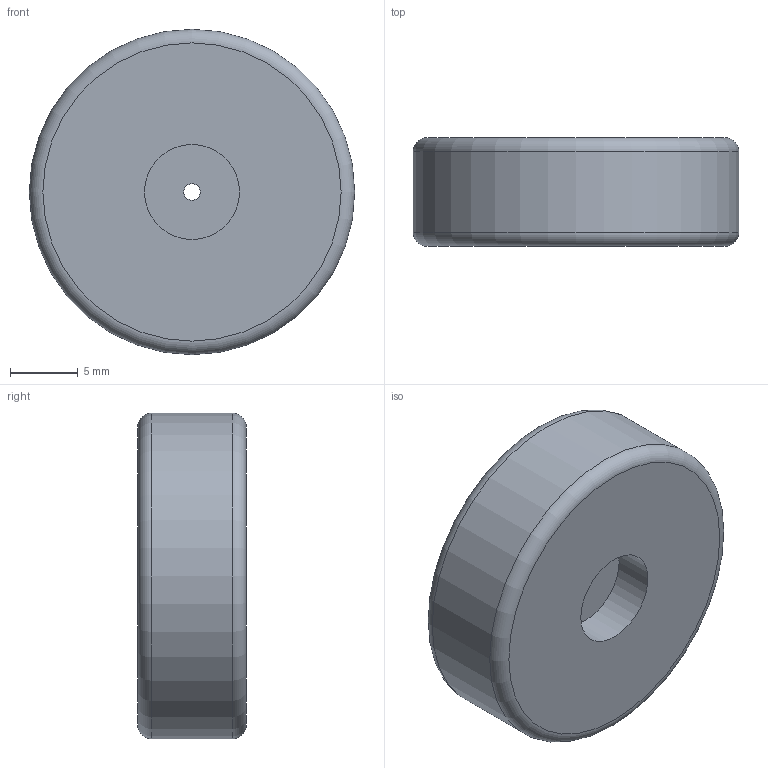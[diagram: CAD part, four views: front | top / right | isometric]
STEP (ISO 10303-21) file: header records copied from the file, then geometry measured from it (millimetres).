
FILE_DESCRIPTION(('Open CASCADE Model'),'2;1');
FILE_NAME('Open CASCADE Shape Model','2026-10-05T13:24:19',('Author'),( 'Open CASCADE'),'Open CASCADE STEP processor 7.8','Open CASCADE 7.8' ,'Unknown');
FILE_SCHEMA(('AUTOMOTIVE_DESIGN { 1 0 10303 214 1 1 1 1 }'));
Length unit declared in the file: millimetre
Products named in the file (1): Open CASCADE STEP translator 7.8 8
Bounding box: 24 x 8 x 24 mm (x, y, z)
Volume: 3466.2 mm3; surface area: 1524.9 mm2
Topology: 1 solids, 1 shells, 8 faces, 13 edges, 8 vertices
Faces by surface type: cylinder 3, plane 3, torus 2
Full cylindrical faces by diameter (mm): 1.2 x1, 7 x1, 24 x1
Entity records: 377 total; most frequent: DIRECTION 66, CARTESIAN_POINT 62, ORIENTED_EDGE 26, PCURVE 26, DEFINITIONAL_REPRESENTATION 26, LINE 23, VECTOR 23, AXIS2_PLACEMENT_3D 19
